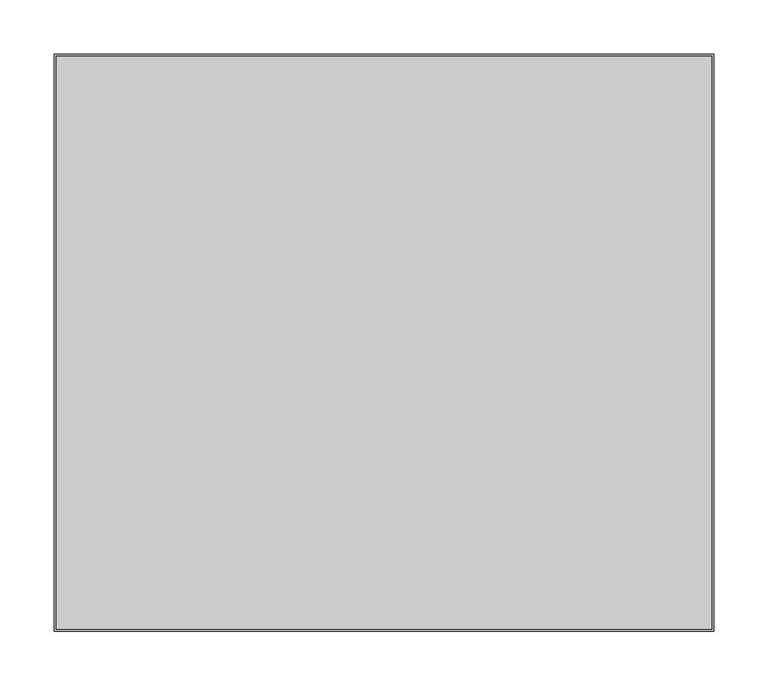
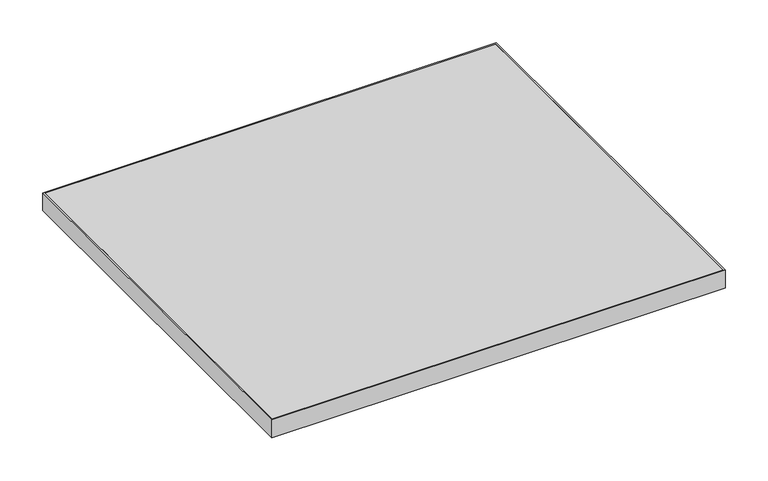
"""IFC4 building model written with IfcOpenShell, lengths in millimetres: furniture geometry, Wieland_HC-Monroe-Spanner_Table : 68MNST2124."""

from ifc_helpers import new_model, si_unit, frame, origin, place, context, project, spatial, polyline, outline, extrude, source, transform, mapped, element, save


def furniture_83969a84(model_context):
    return source(origin(), model_context, "Body", "SweptSolid", [
        extrude(outline(polyline([(-10.715625, -52.784375), (594.915625, -52.784375), (594.915625, -582.215625), (-10.715625, -582.215625), (-10.715625, -52.784375)])), frame((0.0, 0.0, 317.5), z_axis=(0.0, 0.0, 1.0), x_axis=(1.0, 0.0, 0.0)), (0.0, 0.0, 1.0), 25.4),
        extrude(outline(polyline([(596.9, -584.2), (-12.7, -584.2), (-12.7, -50.8), (596.9, -50.8), (596.9, -584.2)]), holes=[polyline([(594.915625, -52.784375), (-10.715625, -52.784375), (-10.715625, -582.215625), (594.915625, -582.215625), (594.915625, -52.784375)])]), frame((0.0, 0.0, 317.5), z_axis=(0.0, 0.0, 1.0), x_axis=(1.0, 0.0, 0.0)), (0.0, 0.0, 1.0), 25.4),
    ])


if __name__ == "__main__":
    model = new_model("IFC4")
    model_context = context("Model", 3, world=origin())
    ifc_project = project(units=[si_unit("LENGTHUNIT", "METRE", prefix="MILLI")], contexts=[model_context])
    site = spatial("IfcSite", under=ifc_project)
    building = spatial("IfcBuilding", under=site)
    placement = place(None, origin())
    furniture_shape = furniture_83969a84(model_context)
    element("IfcFurniture", 1, ObjectType="Wieland_HC-Monroe-Spanner_Table : 68MNST2124", at=placement, inside=building, context=model_context, shape_type="MappedRepresentation", body=[
        mapped(furniture_shape, transform((0.0, 0.0, 0.0), x_axis=(1.0, 0.0, 0.0), y_axis=(0.0, 1.0, 0.0), z_axis=(0.0, 0.0, 1.0))),
    ])
    save(model, "model.ifc")
